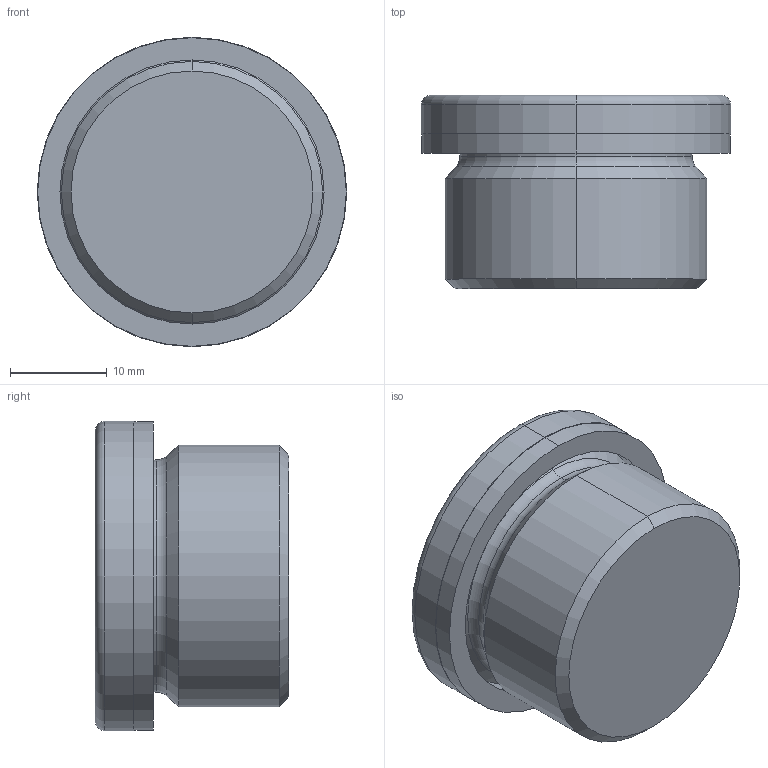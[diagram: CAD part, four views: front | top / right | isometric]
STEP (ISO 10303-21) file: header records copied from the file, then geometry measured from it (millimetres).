
FILE_DESCRIPTION (( 'STEP AP214' ), '1' );
FILE_NAME ('908-ST-M27x2-AA.step', '2024-12-19T09:17:43', ( '' ), ( '' ), 'SwSTEP 2.0', 'SolidWorks 2022', '' );
FILE_SCHEMA (( 'AUTOMOTIVE_DESIGN' ));
Length unit declared in the file: millimetre
Products named in the file (1): 908-ST-M27x2-AA
Bounding box: 32 x 20 x 32 mm (x, y, z)
Volume: 11280.4 mm3; surface area: 4071.2 mm2
Topology: 1 solids, 1 shells, 31 faces, 64 edges, 38 vertices
Faces by surface type: plane 11, cylinder 8, torus 6, cone 6
Entity records: 929 total; most frequent: DIRECTION 160, CARTESIAN_POINT 134, ORIENTED_EDGE 128, EDGE_CURVE 64, AXIS2_PLACEMENT_3D 64, VERTEX_POINT 38, EDGE_LOOP 34, CIRCLE 32
